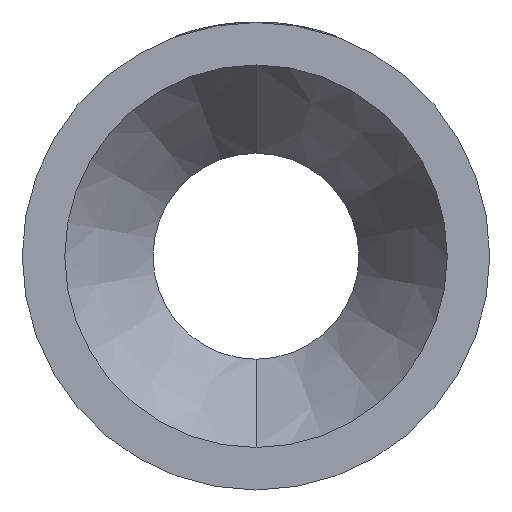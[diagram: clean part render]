
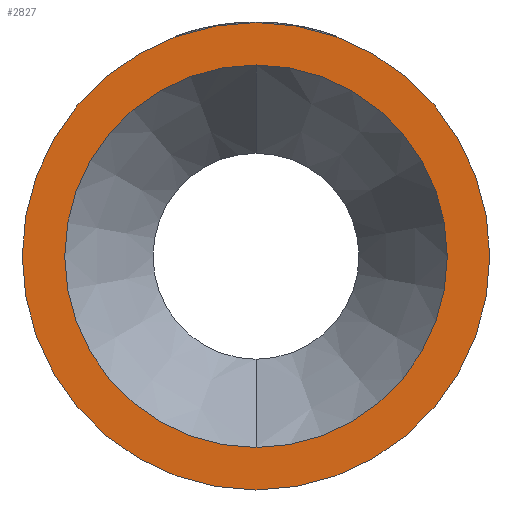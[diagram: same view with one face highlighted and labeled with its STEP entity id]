
A CAD part, left-side view. The second image highlights one B-rep face of the part: STEP entity #2827.
In plain terms, the highlighted planar face has unit normal (-1, 0, 0).
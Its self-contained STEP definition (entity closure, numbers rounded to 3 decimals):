
#82 = PLANE ( 'NONE',  #2431 ) ;
#176 = VERTEX_POINT ( 'NONE', #1588 ) ;
#276 = DIRECTION ( 'NONE',  ( 0., 0., -1. ) ) ;
#327 = DIRECTION ( 'NONE',  ( 1., 0., 0. ) ) ;
#349 = FACE_BOUND ( 'NONE', #1946, .T. ) ;
#464 = CARTESIAN_POINT ( 'NONE',  ( 0., 184.1, 0. ) ) ;
#524 = ORIENTED_EDGE ( 'NONE', *, *, #3543, .F. ) ;
#622 = DIRECTION ( 'NONE',  ( 0., 0., 1. ) ) ;
#677 = DIRECTION ( 'NONE',  ( -1., 0., 0. ) ) ;
#704 = CARTESIAN_POINT ( 'NONE',  ( 0., 0., 0. ) ) ;
#843 = ORIENTED_EDGE ( 'NONE', *, *, #2370, .T. ) ;
#859 = EDGE_LOOP ( 'NONE', ( #843, #1089 ) ) ;
#999 = CARTESIAN_POINT ( 'NONE',  ( 0., 0., 184.1 ) ) ;
#1011 = CARTESIAN_POINT ( 'NONE',  ( 0., 0., 225. ) ) ;
#1079 = CARTESIAN_POINT ( 'NONE',  ( 0., 0., -184.1 ) ) ;
#1089 = ORIENTED_EDGE ( 'NONE', *, *, #1865, .T. ) ;
#1179 = EDGE_CURVE ( 'NONE', #3010, #1488, #2749, .T. ) ;
#1434 = VERTEX_POINT ( 'NONE', #1011 ) ;
#1458 = DIRECTION ( 'NONE',  ( 0., 0., 1. ) ) ;
#1488 = VERTEX_POINT ( 'NONE', #999 ) ;
#1498 = DIRECTION ( 'NONE',  ( -1., 0., 0. ) ) ;
#1504 = CARTESIAN_POINT ( 'NONE',  ( 0., 0., 0. ) ) ;
#1588 = CARTESIAN_POINT ( 'NONE',  ( 0., 0., -225. ) ) ;
#1723 = CIRCLE ( 'NONE', #2482, 225. ) ;
#1865 = EDGE_CURVE ( 'NONE', #176, #1434, #2365, .T. ) ;
#1946 = EDGE_LOOP ( 'NONE', ( #524, #3061 ) ) ;
#2365 = CIRCLE ( 'NONE', #2728, 225. ) ;
#2370 = EDGE_CURVE ( 'NONE', #1434, #176, #1723, .T. ) ;
#2431 = AXIS2_PLACEMENT_3D ( 'NONE', #464, #327, #276 ) ;
#2479 = CIRCLE ( 'NONE', #3448, 184.1 ) ;
#2482 = AXIS2_PLACEMENT_3D ( 'NONE', #3733, #3506, #3493 ) ;
#2728 = AXIS2_PLACEMENT_3D ( 'NONE', #1504, #1498, #1458 ) ;
#2736 = DIRECTION ( 'NONE',  ( 0., 0., 1. ) ) ;
#2749 = CIRCLE ( 'NONE', #3020, 184.1 ) ;
#2757 = DIRECTION ( 'NONE',  ( -1., 0., 0. ) ) ;
#2767 = CARTESIAN_POINT ( 'NONE',  ( 0., 0., 0. ) ) ;
#2827 = ADVANCED_FACE ( 'NONE', ( #349, #3453 ), #82, .F. ) ;
#3010 = VERTEX_POINT ( 'NONE', #1079 ) ;
#3020 = AXIS2_PLACEMENT_3D ( 'NONE', #704, #677, #622 ) ;
#3061 = ORIENTED_EDGE ( 'NONE', *, *, #1179, .F. ) ;
#3448 = AXIS2_PLACEMENT_3D ( 'NONE', #2767, #2757, #2736 ) ;
#3453 = FACE_OUTER_BOUND ( 'NONE', #859, .T. ) ;
#3493 = DIRECTION ( 'NONE',  ( 0., 0., 1. ) ) ;
#3506 = DIRECTION ( 'NONE',  ( -1., 0., 0. ) ) ;
#3543 = EDGE_CURVE ( 'NONE', #1488, #3010, #2479, .T. ) ;
#3733 = CARTESIAN_POINT ( 'NONE',  ( 0., 0., 0. ) ) ;
